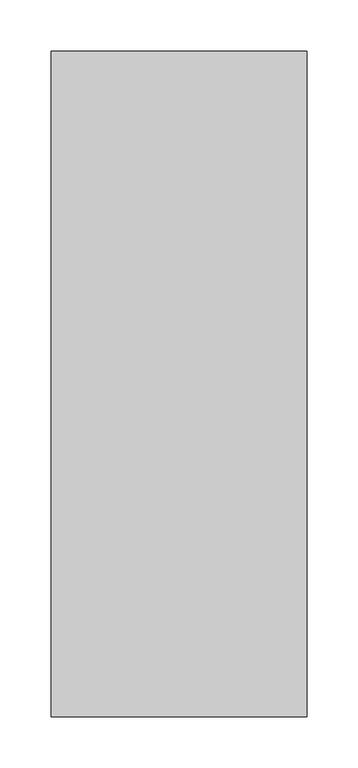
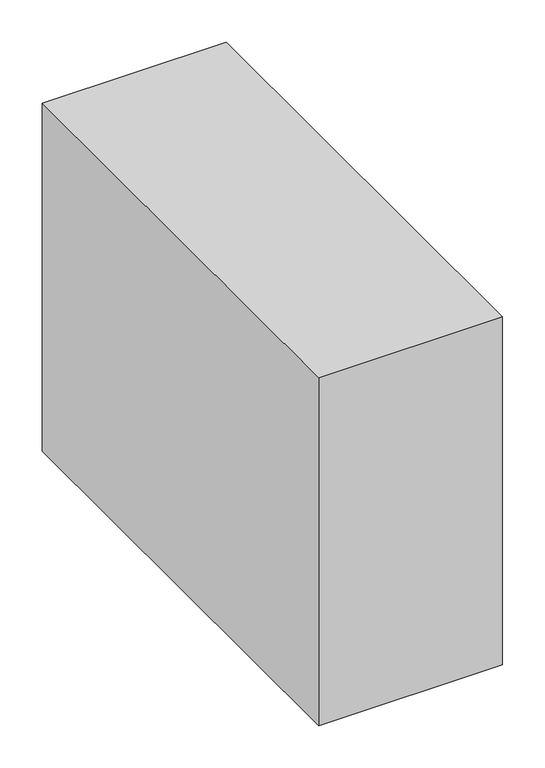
"""IFC4 building model written with IfcOpenShell, lengths in millimetres: proxy geometry, Sockel_250mm_2025-07-23."""

from ifc_helpers import new_model, si_unit, frame, origin, place, context, project, spatial, polyline, outline, extrude, source, transform, mapped, element, save


def generic_models_c230b21e(model_context):
    return source(origin(), model_context, "Body", "SweptSolid", [
        extrude(outline(polyline([(0.0, 0.0), (0.0, 650.0), (250.0, 650.0), (250.0, 0.0), (0.0, 0.0)])), frame((0.0, 0.0, -500.0), z_axis=(0.0, 0.0, 1.0), x_axis=(1.0, 0.0, 0.0)), (0.0, 0.0, 1.0), 500.0),
    ])


if __name__ == "__main__":
    model = new_model("IFC4")
    model_context = context("Model", 3, world=origin())
    ifc_project = project(units=[si_unit("LENGTHUNIT", "METRE", prefix="MILLI")], contexts=[model_context])
    site = spatial("IfcSite", under=ifc_project)
    building = spatial("IfcBuilding", under=site)
    placement = place(None, origin())
    generic_models_shape = generic_models_c230b21e(model_context)
    element("IfcBuildingElementProxy", 1, Name="Sockel_250mm_2025-07-23", ObjectType="Sockel_250mm_2025-07-23", at=placement, inside=building, context=model_context, shape_type="MappedRepresentation", body=[
        mapped(generic_models_shape, transform((0.0, 0.0, 0.0), x_axis=(1.0, 0.0, 0.0), y_axis=(0.0, 1.0, 0.0), z_axis=(0.0, 0.0, 1.0))),
    ])
    save(model, "model.ifc")
